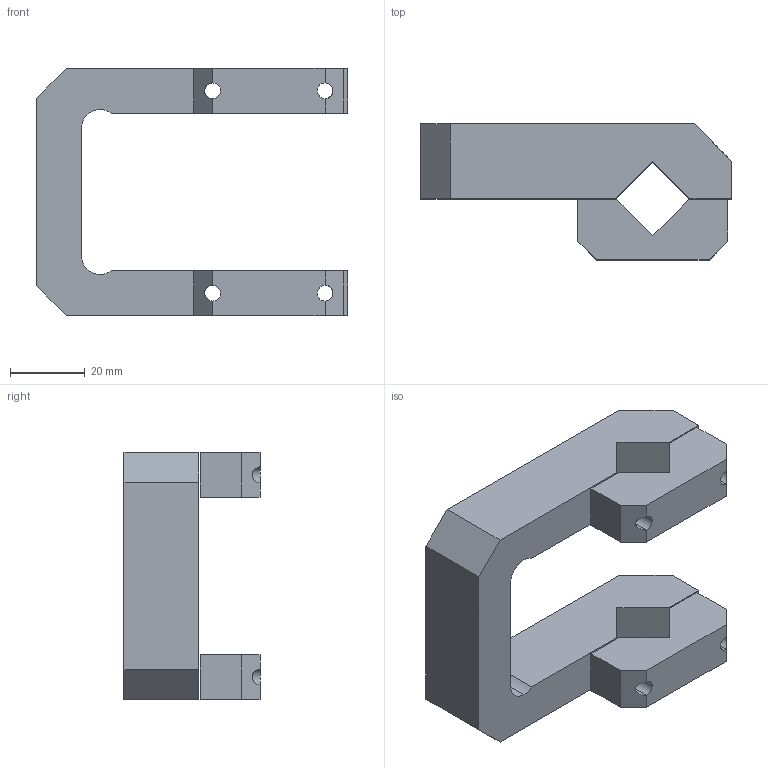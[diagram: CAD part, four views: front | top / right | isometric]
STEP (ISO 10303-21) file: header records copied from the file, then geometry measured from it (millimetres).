
FILE_DESCRIPTION (( 'STEP AP203' ), '1' );
FILE_NAME ('BC-40-MC.STEP', '2017-02-15T11:49:44', ( '' ), ( '' ), 'SwSTEP 2.0', 'SolidWorks 2012', '' );
FILE_SCHEMA (( 'CONFIG_CONTROL_DESIGN' ));
Length unit declared in the file: millimetre
Products named in the file (1): BC-40-MC
Bounding box: 83 x 36.29 x 66 mm (x, y, z)
Volume: 53024 mm3; surface area: 19905.7 mm2
Topology: 3 solids, 3 shells, 74 faces, 202 edges, 132 vertices
Faces by surface type: plane 46, cylinder 28
Entity records: 2437 total; most frequent: CARTESIAN_POINT 439, ORIENTED_EDGE 404, DIRECTION 392, EDGE_CURVE 202, VECTOR 142, LINE 142, VERTEX_POINT 132, AXIS2_PLACEMENT_3D 125
